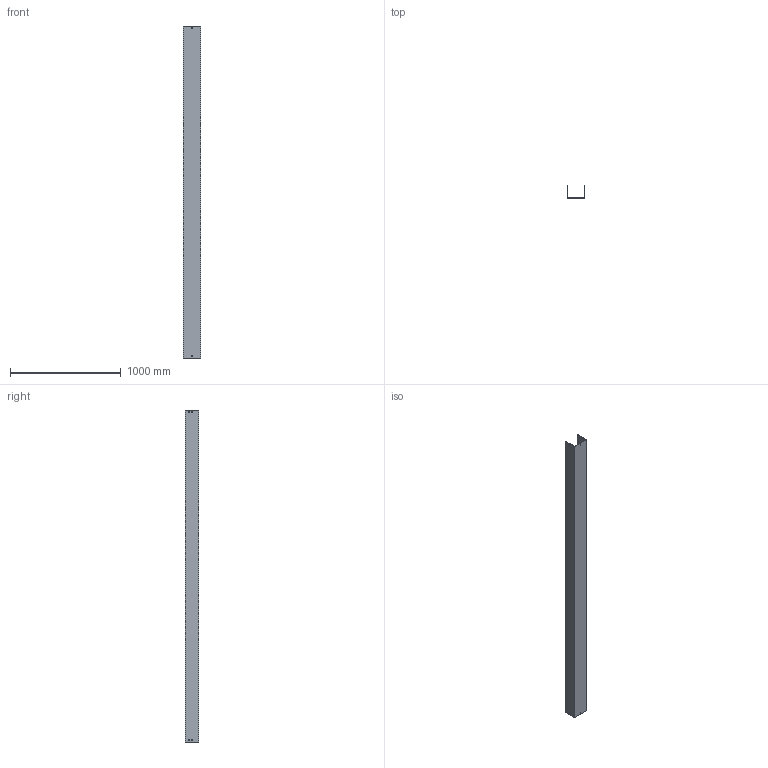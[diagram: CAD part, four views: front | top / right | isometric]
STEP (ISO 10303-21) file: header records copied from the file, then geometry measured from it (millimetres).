
FILE_DESCRIPTION (( 'STEP AP214' ), '1' );
FILE_NAME ('03B3J150.step', '2025-02-21T10:09:00', ( '' ), ( '' ), 'SwSTEP 2.0', 'SolidWorks 2023', '' );
FILE_SCHEMA (( 'AUTOMOTIVE_DESIGN' ));
Length unit declared in the file: millimetre
Products named in the file (1): 03B3J150
Bounding box: 154 x 117.5 x 3000 mm (x, y, z)
Volume: 4008630.5 mm3; surface area: 2315489 mm2
Topology: 1 solids, 1 shells, 50 faces, 144 edges, 96 vertices
Faces by surface type: plane 50
Entity records: 1671 total; most frequent: CARTESIAN_POINT 291, ORIENTED_EDGE 288, DIRECTION 246, LINE 144, VECTOR 144, EDGE_CURVE 144, VERTEX_POINT 96, EDGE_LOOP 70
